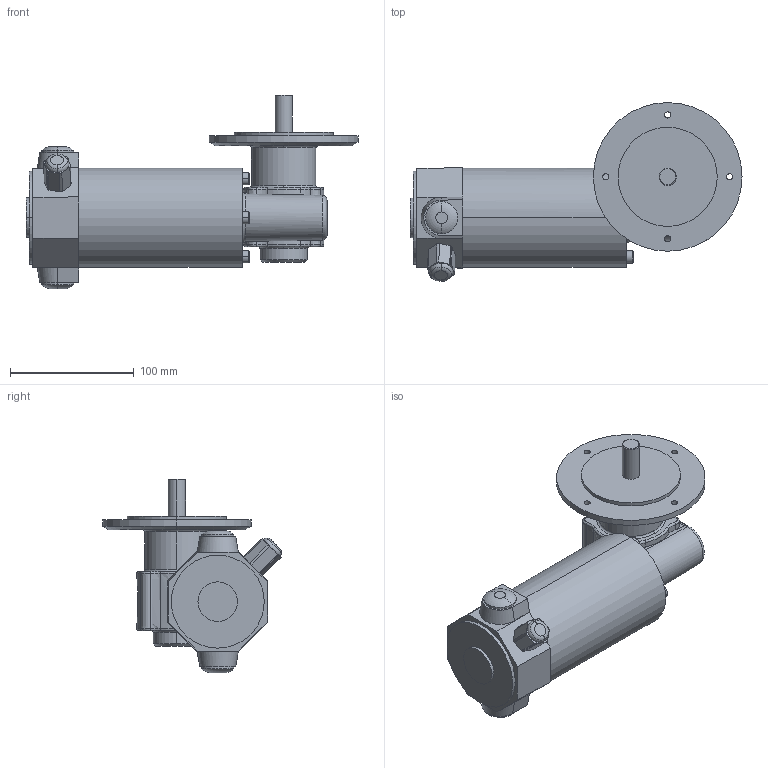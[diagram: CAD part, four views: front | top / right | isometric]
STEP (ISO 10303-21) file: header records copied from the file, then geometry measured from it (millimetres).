
FILE_DESCRIPTION(('OneSpaceDesigner STEP Export'),'2;1');
FILE_NAME('EPG13_GF131.stp','2008-07-10T 7:57:43',(''),(''),'OneSpace Designer STEP processor (Jan. 2003) for AP214(CD)(Solid Model)','OneSpace Designer 12.01D 09-Jul-2004 (C) CoCreate Software GmbH','');
FILE_SCHEMA(('AUTOMOTIVE_DESIGN_CC2 {1 2 10303 214 -1 1 5 1}'));
Length unit declared in the file: millimetre
Products named in the file (2): EPG13_GF131
Assembly tree (1 placements, depth 2):
  EPG13_GF131
    EPG13_GF131
Bounding box: 268 x 144.4 x 156.5 mm (x, y, z)
Volume: 1329453.8 mm3; surface area: 106877 mm2
Topology: 1 solids, 1 shells, 187 faces, 467 edges, 297 vertices
Faces by surface type: plane 49, cylinder 46, bspline 41, extrusion 25, torus 14, cone 12
Entity records: 16092 total; most frequent: CARTESIAN_POINT 12356, ORIENTED_EDGE 934, DIRECTION 492, EDGE_CURVE 467, VERTEX_POINT 297, EDGE_LOOP 210, FACE_OUTER_BOUND 187, ADVANCED_FACE 187
